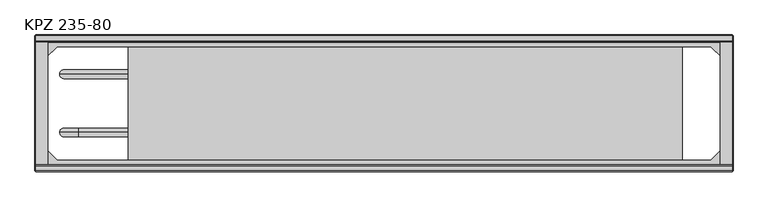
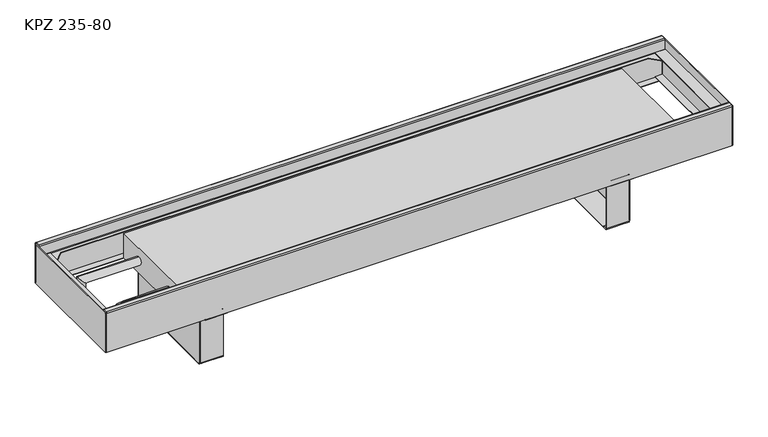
"""IFC4 building model written with IfcOpenShell, lengths in millimetres: proxy geometry, TECHNO_Конвектор напольный_Vita KPZ 235 : KPZ 235-80."""

from ifc_helpers import new_model, si_unit, point, frame, origin, place, context, project, spatial, polyline, circle_curve, ellipse_curve, trimmed, outline, extrude, source, transform, mapped, element, save
from ifc_brep_helpers import plane_surface, cylinder_surface, revolved_surface, advanced_brep


def kpz_235_80_92b68958(model_context):
    return source(origin(), model_context, "Body", "SolidModel", [
        advanced_brep(
        [(409.7, -116.8, 1.5), (409.7, -114.5, 3.8), (409.7, -114.5, 4.9), (409.7, -116.0, 4.9), (409.7, -116.0, 3.8), (409.7, -116.8, 3.0), (409.7, -124.5, 3.0), (409.7, -124.5, 1.5), (409.7, -117.6, 1.5), (409.7, -114.5, 97.7), (409.7, -113.7, 98.5), (409.7, -101.0, 98.5), (409.7, -101.0, 100.0), (409.7, -113.7, 100.0), (409.7, -116.0, 97.7), (409.7, -116.0, 95.5), (409.7, -114.5, 95.5), (409.7, -320.5, 3.8), (409.7, -318.2, 1.5), (409.7, -317.4, 1.5), (409.7, -310.5, 1.5), (409.7, -310.5, 3.0), (409.7, -318.2, 3.0), (409.7, -319.0, 3.8), (409.7, -319.0, 4.9), (409.7, -320.5, 4.9), (409.7, -319.0, 97.7), (409.7, -321.3, 100.0), (409.7, -334.0, 100.0), (409.7, -334.0, 98.5), (409.7, -321.3, 98.5), (409.7, -320.5, 97.7), (409.7, -320.5, 95.5), (409.7, -319.0, 95.5), (367.0, -320.5, 97.7), (367.0, -321.3, 98.5), (367.0, -334.0, 98.5), (367.0, -334.0, 100.0), (367.0, -321.3, 100.0), (367.0, -319.0, 97.7), (367.0, -319.0, 3.8), (367.0, -318.2, 3.0), (367.0, -310.5, 3.0), (367.0, -310.5, 1.5), (367.0, -124.5, 1.5), (367.0, -124.5, 3.0), (367.0, -116.8, 3.0), (367.0, -116.0, 3.8), (367.0, -116.0, 97.7), (367.0, -113.7, 100.0), (367.0, -101.0, 100.0), (367.0, -101.0, 98.5), (367.0, -113.7, 98.5), (367.0, -114.5, 97.7), (367.0, -114.5, 3.8), (367.0, -116.8, 1.5), (367.0, -117.6, 1.5), (367.0, -117.6, 0.0), (367.0, -317.4, 0.0), (367.0, -317.4, 1.5), (367.0, -318.2, 1.5), (367.0, -320.5, 3.8), (410.5, -116.8, 95.5), (410.5, -318.2, 95.5), (412.0, -318.2, 95.5), (412.0, -116.8, 95.5), (412.0, -116.8, 4.9), (412.0, -117.6, 4.9), (410.5, -117.6, 4.9), (410.5, -116.8, 4.9), (410.5, -318.2, 4.9), (410.5, -317.4, 4.9), (412.0, -317.4, 4.9), (412.0, -318.2, 4.9), (410.5, -117.6, 2.3), (410.5, -317.4, 2.3), (411.9999999, -317.4, 2.3), (412.0, -117.6, 2.3), (409.7, -117.6, 0.0), (409.7, -317.4, 0.0)],
        [
            (0, 1, circle_curve(frame((409.7, -116.8, 3.8), z_axis=(1.0, 0.0, 0.0), x_axis=(0.0, -1.0, 0.0)), 2.3)),
            (1, 2),
            (2, 3),
            (3, 4),
            (4, 5, circle_curve(frame((409.7, -116.8, 3.8), z_axis=(-1.0, 0.0, 0.0), x_axis=(0.0, -1.0, 0.0)), 0.8)),
            (5, 6),
            (6, 7),
            (7, 8),
            (8, 0),
            (9, 10, circle_curve(frame((409.7, -113.7, 97.7), z_axis=(-1.0, 0.0, 0.0), x_axis=(0.0, -1.0, 0.0)), 0.8)),
            (10, 11),
            (11, 12),
            (12, 13),
            (13, 14, circle_curve(frame((409.7, -113.7, 97.7), z_axis=(1.0, 0.0, 0.0), x_axis=(0.0, -1.0, 0.0)), 2.3)),
            (14, 15),
            (15, 16),
            (16, 9),
            (17, 18, circle_curve(frame((409.7, -318.2, 3.8), z_axis=(1.0, 0.0, 0.0), x_axis=(0.0, -1.0, 0.0)), 2.3)),
            (18, 19),
            (19, 20),
            (20, 21),
            (21, 22),
            (22, 23, circle_curve(frame((409.7, -318.2, 3.8), z_axis=(-1.0, 0.0, 0.0), x_axis=(0.0, -1.0, 0.0)), 0.8)),
            (23, 24),
            (24, 25),
            (25, 17),
            (26, 27, circle_curve(frame((409.7, -321.3, 97.7), z_axis=(1.0, 0.0, 0.0), x_axis=(0.0, -1.0, 0.0)), 2.3)),
            (27, 28),
            (28, 29),
            (29, 30),
            (30, 31, circle_curve(frame((409.7, -321.3, 97.7), z_axis=(-1.0, 0.0, 0.0), x_axis=(0.0, -1.0, 0.0)), 0.8)),
            (31, 32),
            (32, 33),
            (33, 26),
            (34, 35, circle_curve(frame((367.0, -321.3, 97.7), z_axis=(1.0, 0.0, 0.0), x_axis=(0.0, -1.0, 0.0)), 0.8)),
            (35, 36),
            (36, 37),
            (37, 38),
            (38, 39, circle_curve(frame((367.0, -321.3, 97.7), z_axis=(-1.0, 0.0, 0.0), x_axis=(0.0, -1.0, 0.0)), 2.3)),
            (39, 40),
            (40, 41, circle_curve(frame((367.0, -318.2, 3.8), z_axis=(1.0, 0.0, 0.0), x_axis=(0.0, -1.0, 0.0)), 0.8)),
            (41, 42),
            (42, 43),
            (43, 44),
            (44, 45),
            (45, 46),
            (46, 47, circle_curve(frame((367.0, -116.8, 3.8), z_axis=(1.0, 0.0, 0.0), x_axis=(0.0, -1.0, 0.0)), 0.8)),
            (47, 48),
            (48, 49, circle_curve(frame((367.0, -113.7, 97.7), z_axis=(-1.0, 0.0, 0.0), x_axis=(0.0, -1.0, 0.0)), 2.3)),
            (49, 50),
            (50, 51),
            (51, 52),
            (52, 53, circle_curve(frame((367.0, -113.7, 97.7), z_axis=(1.0, 0.0, 0.0), x_axis=(0.0, -1.0, 0.0)), 0.8)),
            (53, 54),
            (54, 55, circle_curve(frame((367.0, -116.8, 3.8), z_axis=(-1.0, 0.0, 0.0), x_axis=(0.0, -1.0, 0.0)), 2.3)),
            (55, 56),
            (56, 57),
            (57, 58),
            (58, 59),
            (59, 60),
            (60, 61, circle_curve(frame((367.0, -318.2, 3.8), z_axis=(-1.0, 0.0, 0.0), x_axis=(0.0, -1.0, 0.0)), 2.3)),
            (61, 34),
            (30, 35),
            (34, 31),
            (29, 36),
            (28, 37),
            (27, 38),
            (26, 39),
            (33, 24),
            (23, 40),
            (22, 41),
            (5, 46),
            (45, 6),
            (4, 47),
            (3, 15),
            (14, 48),
            (13, 49),
            (12, 50),
            (11, 51),
            (10, 52),
            (9, 53),
            (16, 2),
            (1, 54),
            (0, 55),
            (8, 56),
            (17, 61),
            (60, 18),
            (25, 32),
            (21, 42),
            (20, 43),
            (59, 19),
            (44, 7),
            (15, 62, circle_curve(frame((409.7, -116.8, 95.5), z_axis=(0.0, 0.0, -1.0), x_axis=(-1.0, 0.0, 0.0)), 0.8)),
            (62, 63),
            (63, 33, circle_curve(frame((409.7, -318.2, 95.5), z_axis=(0.0, 0.0, -1.0), x_axis=(-1.0, 0.0, 0.0)), 0.8)),
            (32, 64, circle_curve(frame((409.7, -318.2, 95.5), z_axis=(0.0, 0.0, 1.0), x_axis=(-1.0, 0.0, 0.0)), 2.3)),
            (64, 65),
            (65, 16, circle_curve(frame((409.7, -116.8, 95.5), z_axis=(0.0, 0.0, 1.0), x_axis=(-1.0, 0.0, 0.0)), 2.3)),
            (2, 66, circle_curve(frame((409.7, -116.8, 4.9), z_axis=(0.0, 0.0, -1.0), x_axis=(-1.0, 0.0, 0.0)), 2.3)),
            (66, 67),
            (67, 68),
            (68, 69),
            (69, 3, circle_curve(frame((409.7, -116.8, 4.9), z_axis=(0.0, 0.0, 1.0), x_axis=(-1.0, 0.0, 0.0)), 0.8)),
            (24, 70, circle_curve(frame((409.7, -318.2, 4.9), z_axis=(0.0, 0.0, 1.0), x_axis=(-1.0, 0.0, 0.0)), 0.8)),
            (70, 71),
            (71, 72),
            (72, 73),
            (73, 25, circle_curve(frame((409.7, -318.2, 4.9), z_axis=(0.0, 0.0, -1.0), x_axis=(-1.0, 0.0, 0.0)), 2.3)),
            (69, 62),
            (68, 74),
            (74, 75),
            (75, 71),
            (70, 63),
            (64, 73),
            (72, 76),
            (76, 77),
            (77, 67),
            (66, 65),
            (8, 74, circle_curve(frame((409.7, -117.6, 2.3), z_axis=(0.0, -1.0, 0.0), x_axis=(-1.0, 0.0, 0.0)), 0.8)),
            (77, 78, circle_curve(frame((409.7, -117.6, 2.3), z_axis=(0.0, 1.0, 0.0), x_axis=(-1.0, 0.0, 0.0)), 2.3)),
            (78, 57),
            (58, 79),
            (79, 76, circle_curve(frame((409.7, -317.4, 2.3), z_axis=(0.0, -1.0, 0.0), x_axis=(-1.0, 0.0, 0.0)), 2.3)),
            (75, 19, circle_curve(frame((409.7, -317.4, 2.3), z_axis=(0.0, 1.0, 0.0), x_axis=(-1.0, 0.0, 0.0)), 0.8)),
            (20, 7),
            (79, 78),
        ],
        [
            plane_surface(frame((409.7, -322.1, 97.7), z_axis=(1.0, 0.0, 0.0), x_axis=(0.0, 0.0, 1.0))),
            plane_surface(frame((367.0, -322.1, 97.7), z_axis=(-1.0, 0.0, 0.0), x_axis=(0.0, 0.0, -1.0))),
            revolved_surface(polyline([(409.7, -322.1, 97.7), (367.0, -322.1, 97.7)]), (409.7, -321.3, 97.7), (1.0, 0.0, 0.0)),
            plane_surface(frame((367.0, -321.3, 98.5), z_axis=(0.0, 0.0, -1.0), x_axis=(1.0, 0.0, 0.0))),
            plane_surface(frame((367.0, -334.0, 98.5), z_axis=(0.0, -1.0, 0.0), x_axis=(1.0, 0.0, 0.0))),
            plane_surface(frame((367.0, -334.0, 100.0), z_axis=(0.0, 0.0, 1.0), x_axis=(1.0, 0.0, 0.0))),
            cylinder_surface(frame((409.7, -321.3, 97.7), z_axis=(-1.0, 0.0, 0.0), x_axis=(0.0, -1.0, 0.0)), 2.3),
            plane_surface(frame((367.0, -319.0, 97.7), z_axis=(0.0, 1.0, 3.691903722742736e-12), x_axis=(1.0, 0.0, 0.0))),
            revolved_surface(polyline([(409.7, -319.0, 3.8), (367.0, -319.0, 3.8)]), (409.7, -318.2, 3.8), (1.0, 0.0, 0.0)),
            plane_surface(frame((367.0, -124.5, 3.0), z_axis=(0.0, 0.0, 1.0), x_axis=(1.0, 0.0, 0.0))),
            revolved_surface(polyline([(409.7, -117.6, 3.8), (367.0, -117.6, 3.8)]), (412.0, -116.8, 3.8), (1.0, 0.0, 0.0)),
            plane_surface(frame((367.0, -116.0, 3.8), z_axis=(0.0, -1.0, 0.0), x_axis=(1.0, 0.0, 0.0))),
            cylinder_surface(frame((412.0, -113.7, 97.7), z_axis=(-1.0, 0.0, 0.0), x_axis=(0.0, -1.0, 0.0)), 2.3),
            plane_surface(frame((367.0, -113.7, 100.0), z_axis=(0.0, 0.0, 1.0), x_axis=(1.0, 0.0, 0.0))),
            plane_surface(frame((367.0, -101.0, 100.0), z_axis=(0.0, 1.0, 0.0), x_axis=(1.0, 0.0, 0.0))),
            plane_surface(frame((367.0, -101.0, 98.5), z_axis=(0.0, 0.0, -1.0), x_axis=(1.0, 0.0, 0.0))),
            revolved_surface(polyline([(409.7, -114.5, 97.7), (367.0, -114.5, 97.7)]), (412.0, -113.7, 97.7), (1.0, 0.0, 0.0)),
            plane_surface(frame((367.0, -114.5, 97.7), z_axis=(0.0, 1.0, 0.0), x_axis=(1.0, 0.0, 0.0))),
            cylinder_surface(frame((412.0, -116.8, 3.8), z_axis=(-1.0, 0.0, 0.0), x_axis=(0.0, -1.0, 0.0)), 2.3),
            plane_surface(frame((367.0, -116.8, 1.5), z_axis=(0.0, 0.0, -1.0), x_axis=(1.0, 0.0, 0.0))),
            cylinder_surface(frame((409.7, -318.2, 3.8), z_axis=(-1.0, 0.0, 0.0), x_axis=(0.0, -1.0, 0.0)), 2.3),
            plane_surface(frame((367.0, -320.5, 3.8), z_axis=(0.0, -1.0, 0.0), x_axis=(1.0, 0.0, 0.0))),
            plane_surface(frame((367.0, -318.2, 3.0), z_axis=(0.0, 0.0, 1.0), x_axis=(1.0, 0.0, 0.0))),
            plane_surface(frame((367.0, -310.5, 3.0), z_axis=(0.0, 1.0, 0.0), x_axis=(1.0, 0.0, 0.0))),
            plane_surface(frame((367.0, -310.5, 1.5), z_axis=(0.0, 0.0, -1.0), x_axis=(1.0, 0.0, 0.0))),
            plane_surface(frame((367.0, -124.5, 1.5), z_axis=(0.0, -1.0, 0.0), x_axis=(1.0, 0.0, 0.0))),
            plane_surface(frame((409.7, -116.0, 95.5), z_axis=(0.0, 0.0, 1.0), x_axis=(0.0, -1.0, 0.0))),
            plane_surface(frame((409.7, -116.0, 4.9), z_axis=(0.0, 0.0, -1.0), x_axis=(0.0, 1.0, 0.0))),
            revolved_surface(polyline([(408.9, -116.8, 4.9), (408.9, -116.8, 95.5)]), (409.7, -116.8, 4.9), (0.0, 0.0, -1.0)),
            plane_surface(frame((410.5, -116.8, 95.5), z_axis=(-1.0, 0.0, 0.0), x_axis=(0.0, 0.0, -1.0))),
            plane_surface(frame((412.0, -117.6, 95.5), z_axis=(1.0, -4.3226800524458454e-10, 0.0), x_axis=(0.0, 0.0, -1.0))),
            cylinder_surface(frame((409.7, -116.8, 4.9), z_axis=(0.0, 0.0, 1.0), x_axis=(-1.0, 0.0, 0.0)), 2.3),
            cylinder_surface(frame((409.7, -318.2, 0.0), z_axis=(0.0, 0.0, 1.0), x_axis=(-1.0, 0.0, 0.0)), 2.3),
            revolved_surface(polyline([(408.9, -318.2, 4.9), (408.9, -318.2, 95.5)]), (409.7, -318.2, 0.0), (0.0, 0.0, -1.0)),
            plane_surface(frame((367.0, -117.6, 1.5), z_axis=(0.0, 1.0, 0.0), x_axis=(0.0, 0.0, 1.0))),
            plane_surface(frame((367.0, -317.4, 1.5), z_axis=(0.0, -1.0, 0.0), x_axis=(0.0, 0.0, -1.0))),
            plane_surface(frame((367.0, -117.6, 1.5), z_axis=(0.0, 0.0, 1.0), x_axis=(0.0, -1.0, 0.0))),
            revolved_surface(polyline([(408.9, -317.4, 2.3), (408.9, -117.6, 2.3)]), (409.7, -317.4, 2.3), (0.0, -1.0, 0.0)),
            cylinder_surface(frame((409.7, -317.4, 2.3), z_axis=(0.0, 1.0, 0.0), x_axis=(-1.0, 0.0, 0.0)), 2.3),
            plane_surface(frame((409.7, -117.6, 0.0), z_axis=(0.0, 0.0, -1.0), x_axis=(0.0, -1.0, 0.0))),
        ],
        [
            (0, [[1, 2, 3, 4, 5, 6, 7, 8, 9]]),
            (0, [[10, 11, 12, 13, 14, 15, 16, 17]]),
            (0, [[18, 19, 20, 21, 22, 23, 24, 25, 26]]),
            (0, [[27, 28, 29, 30, 31, 32, 33, 34]]),
            (1, [[35, 36, 37, 38, 39, 40, 41, 42, 43, 44, 45, 46, 47, 48, 49, 50, 51, 52, 53, 54, 55, 56, 57, 58, 59, 60, 61, 62]]),
            (2, [[-31, 63, -35, 64]]),
            (3, [[-30, 65, -36, -63]]),
            (4, [[-29, 66, -37, -65]]),
            (5, [[-28, 67, -38, -66]]),
            (6, [[-27, 68, -39, -67]]),
            (7, [[-40, -68, -34, 69, -24, 70]]),
            (8, [[-23, 71, -41, -70]]),
            (9, [[-6, 72, -46, 73]]),
            (10, [[-5, 74, -47, -72]]),
            (11, [[-48, -74, -4, 75, -15, 76]]),
            (12, [[-14, 77, -49, -76]]),
            (13, [[-13, 78, -50, -77]]),
            (14, [[-12, 79, -51, -78]]),
            (15, [[-11, 80, -52, -79]]),
            (16, [[-10, 81, -53, -80]]),
            (17, [[-54, -81, -17, 82, -2, 83]]),
            (18, [[-1, 84, -55, -83]]),
            (19, [[-84, -9, 85, -56]]),
            (20, [[-18, 86, -61, 87]]),
            (21, [[-62, -86, -26, 88, -32, -64]]),
            (22, [[-22, 89, -42, -71]]),
            (23, [[-21, 90, -43, -89]]),
            (24, [[-87, -60, 91, -19]]),
            (25, [[-7, -73, -45, 92]]),
            (26, [[93, 94, 95, -33, 96, 97, 98, -16]]),
            (27, [[99, 100, 101, 102, 103, -3]]),
            (27, [[104, 105, 106, 107, 108, -25]]),
            (28, [[-93, -75, -103, 109]]),
            (29, [[-94, -109, -102, 110, 111, 112, -105, 113]]),
            (30, [[-97, 114, -107, 115, 116, 117, -100, 118]]),
            (31, [[-98, -118, -99, -82]]),
            (32, [[-96, -88, -108, -114]]),
            (33, [[-95, -113, -104, -69]]),
            (34, [[-57, -85, 119, -110, -101, -117, 120, 121]]),
            (35, [[122, 123, -115, -106, -112, 124, -91, -59]]),
            (36, [[125, -92, -44, -90]]),
            (37, [[-119, -8, -125, -20, -124, -111]]),
            (38, [[-120, -116, -123, 126]]),
            (39, [[-121, -126, -122, -58]]),
        ],
    ),
        advanced_brep(
        [(-409.7, -318.2, 1.5), (-409.7, -320.5, 3.8), (-409.7, -320.5, 4.9), (-409.7, -319.0, 4.9), (-409.7, -319.0, 3.8), (-409.7, -318.2, 3.0), (-409.7, -310.5, 3.0), (-409.7, -310.5, 1.5), (-409.7, -317.4, 1.5), (-409.7, -320.5, 97.7), (-409.7, -321.3, 98.5), (-409.7, -334.0, 98.5), (-409.7, -334.0, 100.0), (-409.7, -321.3, 100.0), (-409.7, -319.0, 97.7), (-409.7, -319.0, 95.5), (-409.7, -320.5, 95.5), (-409.7, -114.5, 3.8), (-409.7, -116.8, 1.5), (-409.7, -117.6, 1.5), (-409.7, -124.5, 1.5), (-409.7, -124.5, 3.0), (-409.7, -116.8, 3.0), (-409.7, -116.0, 3.8), (-409.7, -116.0, 4.9), (-409.7, -114.5, 4.9), (-409.7, -116.0, 97.7), (-409.7, -113.7, 100.0), (-409.7, -101.0, 100.0), (-409.7, -101.0, 98.5), (-409.7, -113.7, 98.5), (-409.7, -114.5, 97.7), (-409.7, -114.5, 95.5), (-409.7, -116.0, 95.5), (-367.0, -114.5, 97.7), (-367.0, -113.7, 98.5), (-367.0, -101.0, 98.5), (-367.0, -101.0, 100.0), (-367.0, -113.7, 100.0), (-367.0, -116.0, 97.7), (-367.0, -116.0, 3.8), (-367.0, -116.8, 3.0), (-367.0, -124.5, 3.0), (-367.0, -124.5, 1.5), (-367.0, -310.5, 1.5), (-367.0, -310.5, 3.0), (-367.0, -318.2, 3.0), (-367.0, -319.0, 3.8), (-367.0, -319.0, 97.7), (-367.0, -321.3, 100.0), (-367.0, -334.0, 100.0), (-367.0, -334.0, 98.5), (-367.0, -321.3, 98.5), (-367.0, -320.5, 97.7), (-367.0, -320.5, 3.8), (-367.0, -318.2, 1.5), (-367.0, -317.4, 1.5), (-367.0, -317.4, 0.0), (-367.0, -117.6, 0.0), (-367.0, -117.6, 1.5), (-367.0, -116.8, 1.5), (-367.0, -114.5, 3.8), (-410.5, -318.2, 95.5), (-410.5, -116.8, 95.5), (-412.0, -116.8, 95.5), (-412.0, -318.2, 95.5), (-412.0, -318.2, 4.9), (-412.0, -317.4, 4.9), (-410.5, -317.4, 4.9), (-410.5, -318.2, 4.9), (-410.5, -116.8, 4.9), (-410.5, -117.6, 4.9), (-412.0, -117.6, 4.9), (-412.0, -116.8, 4.9), (-410.5, -317.4, 2.3), (-410.5, -117.6, 2.3), (-411.9999999, -117.6, 2.3), (-412.0, -317.4, 2.3), (-409.7, -317.4, 0.0), (-409.7, -117.6, 0.0)],
        [
            (0, 1, circle_curve(frame((-409.7, -318.2, 3.8), z_axis=(-1.0, 0.0, 0.0), x_axis=(0.0, 1.0, 0.0)), 2.3)),
            (1, 2),
            (2, 3),
            (3, 4),
            (4, 5, circle_curve(frame((-409.7, -318.2, 3.8), z_axis=(1.0, 0.0, 0.0), x_axis=(0.0, 1.0, 0.0)), 0.8)),
            (5, 6),
            (6, 7),
            (7, 8),
            (8, 0),
            (9, 10, circle_curve(frame((-409.7, -321.3, 97.7), z_axis=(1.0, 0.0, 0.0), x_axis=(0.0, 1.0, 0.0)), 0.8)),
            (10, 11),
            (11, 12),
            (12, 13),
            (13, 14, circle_curve(frame((-409.7, -321.3, 97.7), z_axis=(-1.0, 0.0, 0.0), x_axis=(0.0, 1.0, 0.0)), 2.3)),
            (14, 15),
            (15, 16),
            (16, 9),
            (17, 18, circle_curve(frame((-409.7, -116.8, 3.8), z_axis=(-1.0, 0.0, 0.0), x_axis=(0.0, 1.0, 0.0)), 2.3)),
            (18, 19),
            (19, 20),
            (20, 21),
            (21, 22),
            (22, 23, circle_curve(frame((-409.7, -116.8, 3.8), z_axis=(1.0, 0.0, 0.0), x_axis=(0.0, 1.0, 0.0)), 0.8)),
            (23, 24),
            (24, 25),
            (25, 17),
            (26, 27, circle_curve(frame((-409.7, -113.7, 97.7), z_axis=(-1.0, 0.0, 0.0), x_axis=(0.0, 1.0, 0.0)), 2.3)),
            (27, 28),
            (28, 29),
            (29, 30),
            (30, 31, circle_curve(frame((-409.7, -113.7, 97.7), z_axis=(1.0, 0.0, 0.0), x_axis=(0.0, 1.0, 0.0)), 0.8)),
            (31, 32),
            (32, 33),
            (33, 26),
            (34, 35, circle_curve(frame((-367.0, -113.7, 97.7), z_axis=(-1.0, 0.0, 0.0), x_axis=(0.0, 1.0, 0.0)), 0.8)),
            (35, 36),
            (36, 37),
            (37, 38),
            (38, 39, circle_curve(frame((-367.0, -113.7, 97.7), z_axis=(1.0, 0.0, 0.0), x_axis=(0.0, 1.0, 0.0)), 2.3)),
            (39, 40),
            (40, 41, circle_curve(frame((-367.0, -116.8, 3.8), z_axis=(-1.0, 0.0, 0.0), x_axis=(0.0, 1.0, 0.0)), 0.8)),
            (41, 42),
            (42, 43),
            (43, 44),
            (44, 45),
            (45, 46),
            (46, 47, circle_curve(frame((-367.0, -318.2, 3.8), z_axis=(-1.0, 0.0, 0.0), x_axis=(0.0, 1.0, 0.0)), 0.8)),
            (47, 48),
            (48, 49, circle_curve(frame((-367.0, -321.3, 97.7), z_axis=(1.0, 0.0, 0.0), x_axis=(0.0, 1.0, 0.0)), 2.3)),
            (49, 50),
            (50, 51),
            (51, 52),
            (52, 53, circle_curve(frame((-367.0, -321.3, 97.7), z_axis=(-1.0, 0.0, 0.0), x_axis=(0.0, 1.0, 0.0)), 0.8)),
            (53, 54),
            (54, 55, circle_curve(frame((-367.0, -318.2, 3.8), z_axis=(1.0, 0.0, 0.0), x_axis=(0.0, 1.0, 0.0)), 2.3)),
            (55, 56),
            (56, 57),
            (57, 58),
            (58, 59),
            (59, 60),
            (60, 61, circle_curve(frame((-367.0, -116.8, 3.8), z_axis=(1.0, 0.0, 0.0), x_axis=(0.0, 1.0, 0.0)), 2.3)),
            (61, 34),
            (30, 35),
            (34, 31),
            (29, 36),
            (28, 37),
            (27, 38),
            (26, 39),
            (33, 24),
            (23, 40),
            (22, 41),
            (5, 46),
            (45, 6),
            (4, 47),
            (3, 15),
            (14, 48),
            (13, 49),
            (12, 50),
            (11, 51),
            (10, 52),
            (9, 53),
            (16, 2),
            (1, 54),
            (0, 55),
            (8, 56),
            (17, 61),
            (60, 18),
            (25, 32),
            (21, 42),
            (20, 43),
            (59, 19),
            (44, 7),
            (15, 62, circle_curve(frame((-409.7, -318.2, 95.5), z_axis=(0.0, 0.0, -1.0), x_axis=(1.0, 0.0, 0.0)), 0.8)),
            (62, 63),
            (63, 33, circle_curve(frame((-409.7, -116.8, 95.5), z_axis=(0.0, 0.0, -1.0), x_axis=(1.0, 0.0, 0.0)), 0.8)),
            (32, 64, circle_curve(frame((-409.7, -116.8, 95.5), z_axis=(0.0, 0.0, 1.0), x_axis=(1.0, 0.0, 0.0)), 2.3)),
            (64, 65),
            (65, 16, circle_curve(frame((-409.7, -318.2, 95.5), z_axis=(0.0, 0.0, 1.0), x_axis=(1.0, 0.0, 0.0)), 2.3)),
            (2, 66, circle_curve(frame((-409.7, -318.2, 4.9), z_axis=(0.0, 0.0, -1.0), x_axis=(1.0, 0.0, 0.0)), 2.3)),
            (66, 67),
            (67, 68),
            (68, 69),
            (69, 3, circle_curve(frame((-409.7, -318.2, 4.9), z_axis=(0.0, 0.0, 1.0), x_axis=(1.0, 0.0, 0.0)), 0.8)),
            (24, 70, circle_curve(frame((-409.7, -116.8, 4.9), z_axis=(0.0, 0.0, 1.0), x_axis=(1.0, 0.0, 0.0)), 0.8)),
            (70, 71),
            (71, 72),
            (72, 73),
            (73, 25, circle_curve(frame((-409.7, -116.8, 4.9), z_axis=(0.0, 0.0, -1.0), x_axis=(1.0, 0.0, 0.0)), 2.3)),
            (69, 62),
            (68, 74),
            (74, 75),
            (75, 71),
            (70, 63),
            (64, 73),
            (72, 76),
            (76, 77),
            (77, 67),
            (66, 65),
            (8, 74, circle_curve(frame((-409.7, -317.4, 2.3), z_axis=(0.0, 1.0, 0.0), x_axis=(1.0, 0.0, 0.0)), 0.8)),
            (77, 78, circle_curve(frame((-409.7, -317.4, 2.3), z_axis=(0.0, -1.0, 0.0), x_axis=(1.0, 0.0, 0.0)), 2.3)),
            (78, 57),
            (58, 79),
            (79, 76, circle_curve(frame((-409.7, -117.6, 2.3), z_axis=(0.0, 1.0, 0.0), x_axis=(1.0, 0.0, 0.0)), 2.3)),
            (75, 19, circle_curve(frame((-409.7, -117.6, 2.3), z_axis=(0.0, -1.0, 0.0), x_axis=(1.0, 0.0, 0.0)), 0.8)),
            (20, 7),
            (79, 78),
        ],
        [
            plane_surface(frame((-409.7, -112.9, 97.7), z_axis=(-1.0, 0.0, 0.0), x_axis=(0.0, 0.0, 1.0))),
            plane_surface(frame((-367.0, -112.9, 97.7), z_axis=(1.0, 0.0, 0.0), x_axis=(0.0, 0.0, -1.0))),
            revolved_surface(polyline([(-409.7, -112.9, 97.7), (-367.0, -112.9, 97.7)]), (-409.7, -113.7, 97.7), (-1.0, 0.0, 0.0)),
            plane_surface(frame((-367.0, -113.7, 98.5), z_axis=(0.0, 0.0, -1.0), x_axis=(-1.0, 0.0, 0.0))),
            plane_surface(frame((-367.0, -101.0, 98.5), z_axis=(0.0, 1.0, 0.0), x_axis=(-1.0, 0.0, 0.0))),
            plane_surface(frame((-367.0, -101.0, 100.0), z_axis=(0.0, 0.0, 1.0), x_axis=(-1.0, 0.0, 0.0))),
            cylinder_surface(frame((-409.7, -113.7, 97.7), z_axis=(1.0, 0.0, 0.0), x_axis=(0.0, 1.0, 0.0)), 2.3),
            plane_surface(frame((-367.0, -116.0, 97.7), z_axis=(0.0, -1.0, 3.691903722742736e-12), x_axis=(-1.0, 0.0, 0.0))),
            revolved_surface(polyline([(-409.7, -116.0, 3.8), (-367.0, -116.0, 3.8)]), (-409.7, -116.8, 3.8), (-1.0, 0.0, 0.0)),
            plane_surface(frame((-367.0, -310.5, 3.0), z_axis=(0.0, 0.0, 1.0), x_axis=(-1.0, 0.0, 0.0))),
            revolved_surface(polyline([(-409.7, -317.4, 3.8), (-367.0, -317.4, 3.8)]), (-412.0, -318.2, 3.8), (-1.0, 0.0, 0.0)),
            plane_surface(frame((-367.0, -319.0, 3.8), z_axis=(0.0, 1.0, 0.0), x_axis=(-1.0, 0.0, 0.0))),
            cylinder_surface(frame((-412.0, -321.3, 97.7), z_axis=(1.0, 0.0, 0.0), x_axis=(0.0, 1.0, 0.0)), 2.3),
            plane_surface(frame((-367.0, -321.3, 100.0), z_axis=(0.0, 0.0, 1.0), x_axis=(-1.0, 0.0, 0.0))),
            plane_surface(frame((-367.0, -334.0, 100.0), z_axis=(0.0, -1.0, 0.0), x_axis=(-1.0, 0.0, 0.0))),
            plane_surface(frame((-367.0, -334.0, 98.5), z_axis=(0.0, 0.0, -1.0), x_axis=(-1.0, 0.0, 0.0))),
            revolved_surface(polyline([(-409.7, -320.5, 97.7), (-367.0, -320.5, 97.7)]), (-412.0, -321.3, 97.7), (-1.0, 0.0, 0.0)),
            plane_surface(frame((-367.0, -320.5, 97.7), z_axis=(0.0, -1.0, 0.0), x_axis=(-1.0, 0.0, 0.0))),
            cylinder_surface(frame((-412.0, -318.2, 3.8), z_axis=(1.0, 0.0, 0.0), x_axis=(0.0, 1.0, 0.0)), 2.3),
            plane_surface(frame((-367.0, -318.2, 1.5), z_axis=(0.0, 0.0, -1.0), x_axis=(-1.0, 0.0, 0.0))),
            cylinder_surface(frame((-409.7, -116.8, 3.8), z_axis=(1.0, 0.0, 0.0), x_axis=(0.0, 1.0, 0.0)), 2.3),
            plane_surface(frame((-367.0, -114.5, 3.8), z_axis=(0.0, 1.0, 0.0), x_axis=(-1.0, 0.0, 0.0))),
            plane_surface(frame((-367.0, -116.8, 3.0), z_axis=(0.0, 0.0, 1.0), x_axis=(-1.0, 0.0, 0.0))),
            plane_surface(frame((-367.0, -124.5, 3.0), z_axis=(0.0, -1.0, 0.0), x_axis=(-1.0, 0.0, 0.0))),
            plane_surface(frame((-367.0, -124.5, 1.5), z_axis=(0.0, 0.0, -1.0), x_axis=(-1.0, 0.0, 0.0))),
            plane_surface(frame((-367.0, -310.5, 1.5), z_axis=(0.0, 1.0, 0.0), x_axis=(-1.0, 0.0, 0.0))),
            plane_surface(frame((-409.7, -319.0, 95.5), z_axis=(0.0, 0.0, 1.0), x_axis=(0.0, 1.0, 0.0))),
            plane_surface(frame((-409.7, -319.0, 4.9), z_axis=(0.0, 0.0, -1.0), x_axis=(0.0, -1.0, 0.0))),
            revolved_surface(polyline([(-408.9, -318.2, 4.9), (-408.9, -318.2, 95.5)]), (-409.7, -318.2, 4.9), (0.0, 0.0, -1.0)),
            plane_surface(frame((-410.5, -318.2, 95.5), z_axis=(1.0, 0.0, 0.0), x_axis=(0.0, 0.0, -1.0))),
            plane_surface(frame((-412.0, -317.4, 95.5), z_axis=(-1.0, 4.3226484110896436e-10, 0.0), x_axis=(0.0, 0.0, -1.0))),
            cylinder_surface(frame((-409.7, -318.2, 4.9), z_axis=(0.0, 0.0, 1.0), x_axis=(1.0, 0.0, 0.0)), 2.3),
            cylinder_surface(frame((-409.7, -116.8, 0.0), z_axis=(0.0, 0.0, 1.0), x_axis=(1.0, 0.0, 0.0)), 2.3),
            revolved_surface(polyline([(-408.9, -116.8, 4.9), (-408.9, -116.8, 95.5)]), (-409.7, -116.8, 0.0), (0.0, 0.0, -1.0)),
            plane_surface(frame((-367.0, -317.4, 1.5), z_axis=(0.0, -1.0, 0.0), x_axis=(0.0, 0.0, 1.0))),
            plane_surface(frame((-367.0, -117.6, 1.5), z_axis=(0.0, 1.0, 0.0), x_axis=(0.0, 0.0, -1.0))),
            plane_surface(frame((-367.0, -317.4, 1.5), z_axis=(0.0, 0.0, 1.0), x_axis=(0.0, 1.0, 0.0))),
            revolved_surface(polyline([(-408.9, -117.6, 2.3), (-408.9, -317.4, 2.3)]), (-409.7, -117.6, 2.3), (0.0, 1.0, 0.0)),
            cylinder_surface(frame((-409.7, -117.6, 2.3), z_axis=(0.0, -1.0, 0.0), x_axis=(1.0, 0.0, 0.0)), 2.3),
            plane_surface(frame((-409.7, -317.4, 0.0), z_axis=(0.0, 0.0, -1.0), x_axis=(0.0, 1.0, 0.0))),
        ],
        [
            (0, [[1, 2, 3, 4, 5, 6, 7, 8, 9]]),
            (0, [[10, 11, 12, 13, 14, 15, 16, 17]]),
            (0, [[18, 19, 20, 21, 22, 23, 24, 25, 26]]),
            (0, [[27, 28, 29, 30, 31, 32, 33, 34]]),
            (1, [[35, 36, 37, 38, 39, 40, 41, 42, 43, 44, 45, 46, 47, 48, 49, 50, 51, 52, 53, 54, 55, 56, 57, 58, 59, 60, 61, 62]]),
            (2, [[-31, 63, -35, 64]]),
            (3, [[-30, 65, -36, -63]]),
            (4, [[-29, 66, -37, -65]]),
            (5, [[-28, 67, -38, -66]]),
            (6, [[-27, 68, -39, -67]]),
            (7, [[-40, -68, -34, 69, -24, 70]]),
            (8, [[-23, 71, -41, -70]]),
            (9, [[-6, 72, -46, 73]]),
            (10, [[-5, 74, -47, -72]]),
            (11, [[-48, -74, -4, 75, -15, 76]]),
            (12, [[-14, 77, -49, -76]]),
            (13, [[-13, 78, -50, -77]]),
            (14, [[-12, 79, -51, -78]]),
            (15, [[-11, 80, -52, -79]]),
            (16, [[-10, 81, -53, -80]]),
            (17, [[-54, -81, -17, 82, -2, 83]]),
            (18, [[-1, 84, -55, -83]]),
            (19, [[-84, -9, 85, -56]]),
            (20, [[-18, 86, -61, 87]]),
            (21, [[-62, -86, -26, 88, -32, -64]]),
            (22, [[-22, 89, -42, -71]]),
            (23, [[-21, 90, -43, -89]]),
            (24, [[-87, -60, 91, -19]]),
            (25, [[-7, -73, -45, 92]]),
            (26, [[93, 94, 95, -33, 96, 97, 98, -16]]),
            (27, [[99, 100, 101, 102, 103, -3]]),
            (27, [[104, 105, 106, 107, 108, -25]]),
            (28, [[-93, -75, -103, 109]]),
            (29, [[-94, -109, -102, 110, 111, 112, -105, 113]]),
            (30, [[-97, 114, -107, 115, 116, 117, -100, 118]]),
            (31, [[-98, -118, -99, -82]]),
            (32, [[-96, -88, -108, -114]]),
            (33, [[-95, -113, -104, -69]]),
            (34, [[-57, -85, 119, -110, -101, -117, 120, 121]]),
            (35, [[122, 123, -115, -106, -112, 124, -91, -59]]),
            (36, [[125, -92, -44, -90]]),
            (37, [[-119, -8, -125, -20, -124, -111]]),
            (38, [[-120, -116, -123, 126]]),
            (39, [[-121, -126, -122, -58]]),
        ],
    ),
        advanced_brep(
        [(-440.0, -267.5, 136.5), (-440.0, -267.5, 121.5), (-525.0, -267.5, 136.5), (-525.0, -267.5, 121.5), (-542.5, -267.5, 104.0), (-557.5, -267.5, 104.0), (-557.5, -267.5, 100.0), (-542.5, -267.5, 100.0)],
        [
            (0, 1, circle_curve(frame((-440.0, -267.5, 129.0), z_axis=(1.0, 0.0, 0.0), x_axis=(0.0, 0.0, -1.0)), 7.5)),
            (1, 0, circle_curve(frame((-440.0, -267.5, 129.0), z_axis=(1.0, 0.0, 0.0), x_axis=(0.0, 0.0, -1.0)), 7.5)),
            (0, 2),
            (2, 3, circle_curve(frame((-525.0, -267.5, 129.0), z_axis=(1.0, 0.0, 0.0), x_axis=(0.0, 0.0, -1.0)), 7.5)),
            (3, 1),
            (3, 2, circle_curve(frame((-525.0, -267.5, 129.0), z_axis=(1.0, 0.0, 0.0), x_axis=(0.0, 0.0, -1.0)), 7.5)),
            (4, 3, circle_curve(frame((-525.0, -267.5, 104.0), z_axis=(0.0, 1.0, 0.0), x_axis=(0.0, 0.0, 1.0)), 17.5)),
            (2, 5, circle_curve(frame((-525.0, -267.5, 104.0), z_axis=(0.0, -1.0, 0.0), x_axis=(0.0, 0.0, 1.0)), 32.5)),
            (5, 4, circle_curve(frame((-550.0, -267.5, 104.0), z_axis=(0.0, 0.0, 1.0), x_axis=(1.0, 0.0, 0.0)), 7.5)),
            (4, 5, circle_curve(frame((-550.0, -267.5, 104.0), z_axis=(0.0, 0.0, 1.0), x_axis=(1.0, 0.0, 0.0)), 7.5)),
            (6, 7, circle_curve(frame((-550.0, -267.5, 100.0), z_axis=(0.0, 0.0, -1.0), x_axis=(1.0, 0.0, 0.0)), 7.5)),
            (7, 6, circle_curve(frame((-550.0, -267.5, 100.0), z_axis=(0.0, 0.0, -1.0), x_axis=(1.0, 0.0, 0.0)), 7.5)),
            (5, 6),
            (7, 4),
        ],
        [
            plane_surface(frame((-440.0, -267.5, 129.0), z_axis=(1.0, 0.0, 0.0), x_axis=(0.0, -1.0, 0.0))),
            cylinder_surface(frame((-440.0, -267.5, 129.0), z_axis=(1.0, 0.0, 0.0), x_axis=(0.0, 0.0, -1.0)), 7.5),
            revolved_surface(trimmed(ellipse_curve(frame((-525.0, -267.5, 129.0), z_axis=(1.0, 0.0, 0.0), x_axis=(0.0, 0.0, -1.0)), 7.5, 7.5), [point((-525.0, -267.5, 136.5))], [point((-525.0, -267.5, 121.5))], True, "CARTESIAN"), (-525.0, -267.5, 104.0), (0.0, -1.0, 0.0)),
            revolved_surface(trimmed(ellipse_curve(frame((-525.0, -267.5, 129.0), z_axis=(1.0, 0.0, 0.0), x_axis=(0.0, 0.0, -1.0)), 7.5, 7.5), [point((-525.0, -267.5, 121.5))], [point((-525.0, -267.5, 136.5))], True, "CARTESIAN"), (-525.0, -267.5, 104.0), (0.0, -1.0, 0.0)),
            plane_surface(frame((-550.0, -267.5, 100.0), z_axis=(0.0, 0.0, -1.0), x_axis=(0.0, -1.0, 0.0))),
            cylinder_surface(frame((-550.0, -267.5, 104.0), z_axis=(0.0, 0.0, 1.0), x_axis=(1.0, 0.0, 0.0)), 7.5),
        ],
        [
            (0, [[1, 2]]),
            (1, [[-1, 3, 4, 5]]),
            (1, [[-2, -5, 6, -3]]),
            (2, [[7, -4, 8, 9]]),
            (3, [[-8, -6, -7, 10]]),
            (4, [[11, 12]]),
            (5, [[-9, 13, -12, 14]]),
            (5, [[-10, -14, -11, -13]]),
        ],
    ),
        advanced_brep(
        [(-440.0, -167.5, 136.5), (-440.0, -167.5, 121.5), (-557.5, -167.5, 136.5), (-542.5, -167.5, 121.5), (-557.5, -167.5, 100.0), (-542.5, -167.5, 100.0)],
        [
            (0, 1, circle_curve(frame((-440.0, -167.5, 129.0), z_axis=(1.0, 0.0, 0.0), x_axis=(0.0, 0.0, -1.0)), 7.5)),
            (1, 0, circle_curve(frame((-440.0, -167.5, 129.0), z_axis=(1.0, 0.0, 0.0), x_axis=(0.0, 0.0, -1.0)), 7.5)),
            (0, 2),
            (2, 3, ellipse_curve(frame((-550.0, -167.5, 129.0), z_axis=(0.7071067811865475, 0.0, 0.7071067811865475), x_axis=(0.7071067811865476, 0.0, -0.7071067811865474)), 10.6066017, 7.5)),
            (3, 1),
            (3, 2, ellipse_curve(frame((-550.0, -167.5, 129.0), z_axis=(0.7071067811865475, 0.0, 0.7071067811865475), x_axis=(0.7071067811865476, 0.0, -0.7071067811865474)), 10.6066017, 7.5)),
            (4, 5, circle_curve(frame((-550.0, -167.5, 100.0), z_axis=(0.0, 0.0, -1.0), x_axis=(1.0, 0.0, 0.0)), 7.5)),
            (5, 4, circle_curve(frame((-550.0, -167.5, 100.0), z_axis=(0.0, 0.0, -1.0), x_axis=(1.0, 0.0, 0.0)), 7.5)),
            (2, 4),
            (5, 3),
        ],
        [
            plane_surface(frame((-440.0, -167.5, 129.0), z_axis=(1.0, 0.0, 0.0), x_axis=(0.0, -1.0, 0.0))),
            cylinder_surface(frame((-440.0, -167.5, 129.0), z_axis=(1.0, 0.0, 0.0), x_axis=(0.0, 0.0, -1.0)), 7.5),
            plane_surface(frame((-550.0, -167.5, 100.0), z_axis=(0.0, 0.0, -1.0), x_axis=(0.0, -1.0, 0.0))),
            cylinder_surface(frame((-550.0, -167.5, 129.0), z_axis=(0.0, 0.0, 1.0), x_axis=(1.0, 0.0, 0.0)), 7.5),
        ],
        [
            (0, [[1, 2]]),
            (1, [[-1, 3, 4, 5]]),
            (1, [[-2, -5, 6, -3]]),
            (2, [[7, 8]]),
            (3, [[-4, 9, -8, 10]]),
            (3, [[-6, -10, -7, -9]]),
        ],
    ),
        extrude(outline(polyline([(513.0, -117.5), (513.0, -317.5), (-440.0, -317.5), (-440.0, -117.5), (513.0, -117.5)])), frame((0.0, 0.0, 103.87), z_axis=(0.0, 0.0, 1.0), x_axis=(1.0, 0.0, 0.0)), (0.0, 0.0, 1.0), 50.0),
        extrude(outline(polyline([(-585.5004, -102.0), (-585.5004, -333.0), (-599.0, -333.0), (-599.0, -102.0), (-585.5004, -102.0)])), frame((0.0, 0.0, 101.83), z_axis=(0.0, 0.0, 1.0), x_axis=(1.0, 0.0, 0.0)), (0.0, 0.0, 1.0), 1.0002),
        extrude(outline(polyline([(585.5004, -102.0), (599.0, -102.0), (599.0, -333.0), (585.5004, -333.0), (585.5004, -102.0)])), frame((0.0, 0.0, 101.83), z_axis=(0.0, 0.0, 1.0), x_axis=(1.0, 0.0, 0.0)), (0.0, 0.0, 1.0), 1.0002),
        extrude(outline(polyline([(-599.0, -322.2), (-599.0, -112.8), (-578.0, -112.8), (-578.0, -322.2), (-599.0, -322.2)])), frame((0.0, 0.0, 158.83), z_axis=(0.0, 0.0, 1.0), x_axis=(1.0, 0.0, 0.0)), (0.0, 0.0, 1.0), 1.0002),
        extrude(outline(polyline([(599.0, -322.2), (578.0, -322.2), (578.0, -112.8), (599.0, -112.8), (599.0, -322.2)])), frame((0.0, 0.0, 158.83), z_axis=(0.0, 0.0, 1.0), x_axis=(1.0, 0.0, 0.0)), (0.0, 0.0, 1.0), 1.0002),
        advanced_brep(
        [(-598.2, -101.8, 180.83), (-598.2, -100.0, 179.03), (-598.2, -101.0, 179.03), (-598.2, -101.0, 157.83), (-598.2, -138.5, 157.83), (-598.2, -138.5, 158.83), (-598.2, -112.8, 158.83), (-598.2, -112.0, 159.63), (-598.2, -112.0, 179.03), (-598.2, -110.2, 180.83), (-598.2, -333.2, 180.83), (-598.2, -324.8, 180.83), (-598.2, -323.0, 179.03), (-598.2, -323.0, 159.63), (-598.2, -322.2, 158.83), (-598.2, -296.5, 158.83), (-598.2, -296.5, 157.83), (-598.2, -334.0, 157.83), (-598.2, -334.0, 179.03), (-598.2, -335.0, 179.03), (598.2, -101.8, 180.83), (598.2, -110.2, 180.83), (598.2, -112.0, 179.03), (598.2, -112.0, 159.63), (598.2, -112.8, 158.83), (598.2, -138.5, 158.83), (598.2, -138.5, 157.83), (598.2, -101.0, 157.83), (598.2, -101.0, 179.03), (598.2, -100.0, 179.03), (598.2, -333.2, 180.83), (598.2, -335.0, 179.03), (598.2, -334.0, 179.03), (598.2, -334.0, 157.83), (598.2, -296.5, 157.83), (598.2, -296.5, 158.83), (598.2, -322.2, 158.83), (598.2, -323.0, 159.63), (598.2, -323.0, 179.03), (598.2, -324.8, 180.83), (-580.3, -138.5, 158.83), (-561.8, -120.0, 158.83), (561.8, -120.0, 158.83), (580.3, -138.5, 158.83), (-580.3, -138.5, 157.83), (580.3, -138.5, 157.83), (561.8, -120.0, 157.83), (-561.8, -120.0, 157.83), (598.2, -100.0, 100.0), (-598.2, -100.0, 100.0), (-598.2, -335.0, 100.0), (598.2, -335.0, 100.0), (580.3, -296.5, 157.83), (-580.3, -296.5, 157.83), (-561.8, -315.0, 157.83), (561.8, -315.0, 157.83), (-580.3, -296.5, 158.83), (580.3, -296.5, 158.83), (561.8, -315.0, 158.83), (-561.8, -315.0, 158.83), (-600.0, -101.8, 179.03), (-600.0, -333.2, 179.03), (-599.0, -333.2, 179.03), (-599.0, -101.8, 179.03), (600.0, -333.2, 179.03), (600.0, -101.8, 179.03), (599.0, -101.8, 179.03), (599.0, -333.2, 179.03), (600.0, -101.8, 100.0), (600.0, -333.2, 100.0), (-600.0, -333.2, 100.0), (-600.0, -101.8, 100.0), (599.0, -101.8, 100.0), (598.2, -101.0, 100.0), (598.2, -113.0, 100.0), (-598.2, -113.0, 100.0), (-598.2, -101.0, 100.0), (-599.0, -101.8, 100.0), (-599.0, -333.2, 100.0), (-598.2, -334.0, 100.0), (-598.2, -322.0, 100.0), (598.2, -322.0, 100.0), (598.2, -334.0, 100.0), (599.0, -333.2, 100.0), (-598.2, -101.0, 100.83), (598.2, -101.0, 100.83), (598.2, -334.0, 100.83), (-598.2, -334.0, 100.83), (-598.2, -113.0, 100.83), (598.2, -113.0, 100.83), (598.2, -322.0, 100.83), (-598.2, -322.0, 100.83)],
        [
            (0, 1, circle_curve(frame((-598.2, -101.8, 179.03), z_axis=(-1.0, 0.0, 0.0), x_axis=(0.0, 1.0, 0.0)), 1.8)),
            (1, 2),
            (2, 3),
            (3, 4),
            (4, 5),
            (5, 6),
            (6, 7, circle_curve(frame((-598.2, -112.8, 159.63), z_axis=(1.0, 0.0, 0.0), x_axis=(0.0, 1.0, 0.0)), 0.8)),
            (7, 8),
            (8, 9, circle_curve(frame((-598.2, -110.2, 179.03), z_axis=(-1.0, 0.0, 0.0), x_axis=(0.0, 1.0, 0.0)), 1.8)),
            (9, 0),
            (10, 11),
            (11, 12, circle_curve(frame((-598.2, -324.8, 179.03), z_axis=(-1.0, 0.0, 0.0), x_axis=(0.0, 1.0, 0.0)), 1.8)),
            (12, 13),
            (13, 14, circle_curve(frame((-598.2, -322.2, 159.63), z_axis=(1.0, 0.0, 0.0), x_axis=(0.0, 1.0, 0.0)), 0.8)),
            (14, 15),
            (15, 16),
            (16, 17),
            (17, 18),
            (18, 19),
            (19, 10, circle_curve(frame((-598.2, -333.2, 179.03), z_axis=(-1.0, 0.0, 0.0), x_axis=(0.0, 1.0, 0.0)), 1.8)),
            (20, 21),
            (21, 22, circle_curve(frame((598.2, -110.2, 179.03), z_axis=(1.0, 0.0, 0.0), x_axis=(0.0, 1.0, 0.0)), 1.8)),
            (22, 23),
            (23, 24, circle_curve(frame((598.2, -112.8, 159.63), z_axis=(-1.0, 0.0, 0.0), x_axis=(0.0, 1.0, 0.0)), 0.8)),
            (24, 25),
            (25, 26),
            (26, 27),
            (27, 28),
            (28, 29),
            (29, 20, circle_curve(frame((598.2, -101.8, 179.03), z_axis=(1.0, 0.0, 0.0), x_axis=(0.0, 1.0, 0.0)), 1.8)),
            (30, 31, circle_curve(frame((598.2, -333.2, 179.03), z_axis=(1.0, 0.0, 0.0), x_axis=(0.0, 1.0, 0.0)), 1.8)),
            (31, 32),
            (32, 33),
            (33, 34),
            (34, 35),
            (35, 36),
            (36, 37, circle_curve(frame((598.2, -322.2, 159.63), z_axis=(-1.0, 0.0, 0.0), x_axis=(0.0, 1.0, 0.0)), 0.8)),
            (37, 38),
            (38, 39, circle_curve(frame((598.2, -324.8, 179.03), z_axis=(1.0, 0.0, 0.0), x_axis=(0.0, 1.0, 0.0)), 1.8)),
            (39, 30),
            (9, 21),
            (20, 0),
            (8, 22),
            (7, 23),
            (6, 24),
            (5, 40),
            (40, 41),
            (41, 42),
            (42, 43),
            (43, 25),
            (4, 44),
            (44, 40),
            (43, 45),
            (45, 26),
            (45, 46),
            (46, 47),
            (47, 44),
            (3, 27),
            (1, 29),
            (29, 48),
            (48, 49),
            (49, 1),
            (19, 31),
            (30, 10),
            (19, 50),
            (50, 51),
            (51, 31),
            (52, 34),
            (33, 17),
            (16, 53),
            (53, 54),
            (54, 55),
            (55, 52),
            (15, 56),
            (56, 53),
            (52, 57),
            (57, 35),
            (14, 36),
            (57, 58),
            (58, 59),
            (59, 56),
            (13, 37),
            (12, 38),
            (11, 39),
            (42, 46),
            (41, 47),
            (58, 55),
            (54, 59),
            (1, 60, circle_curve(frame((-598.2, -101.8, 179.03), z_axis=(0.0, 0.0, 1.0), x_axis=(1.0, 0.0, 0.0)), 1.8)),
            (60, 61),
            (61, 19, circle_curve(frame((-598.2, -333.2, 179.03), z_axis=(0.0, 0.0, 1.0), x_axis=(1.0, 0.0, 0.0)), 1.8)),
            (18, 62, circle_curve(frame((-598.2, -333.2, 179.03), z_axis=(0.0, 0.0, -1.0), x_axis=(1.0, 0.0, 0.0)), 0.8)),
            (62, 63),
            (63, 2, circle_curve(frame((-598.2, -101.8, 179.03), z_axis=(0.0, 0.0, -1.0), x_axis=(1.0, 0.0, 0.0)), 0.8)),
            (31, 64, circle_curve(frame((598.2, -333.2, 179.03), z_axis=(0.0, 0.0, 1.0), x_axis=(1.0, 0.0, 0.0)), 1.8)),
            (64, 65),
            (65, 29, circle_curve(frame((598.2, -101.8, 179.03), z_axis=(0.0, 0.0, 1.0), x_axis=(1.0, 0.0, 0.0)), 1.8)),
            (28, 66, circle_curve(frame((598.2, -101.8, 179.03), z_axis=(0.0, 0.0, -1.0), x_axis=(1.0, 0.0, 0.0)), 0.8)),
            (66, 67),
            (67, 32, circle_curve(frame((598.2, -333.2, 179.03), z_axis=(0.0, 0.0, -1.0), x_axis=(1.0, 0.0, 0.0)), 0.8)),
            (48, 68, circle_curve(frame((598.2, -101.8, 100.0), z_axis=(0.0, 0.0, -1.0), x_axis=(1.0, 0.0, 0.0)), 1.8)),
            (68, 69),
            (69, 51, circle_curve(frame((598.2, -333.2, 100.0), z_axis=(0.0, 0.0, -1.0), x_axis=(1.0, 0.0, 0.0)), 1.8)),
            (50, 70, circle_curve(frame((-598.2, -333.2, 100.0), z_axis=(0.0, 0.0, -1.0), x_axis=(1.0, 0.0, 0.0)), 1.8)),
            (70, 71),
            (71, 49, circle_curve(frame((-598.2, -101.8, 100.0), z_axis=(0.0, 0.0, -1.0), x_axis=(1.0, 0.0, 0.0)), 1.8)),
            (72, 73, circle_curve(frame((598.2, -101.8, 100.0), z_axis=(0.0, 0.0, 1.0), x_axis=(1.0, 0.0, 0.0)), 0.8)),
            (73, 74),
            (74, 75),
            (75, 76),
            (76, 77, circle_curve(frame((-598.2, -101.8, 100.0), z_axis=(0.0, 0.0, 1.0), x_axis=(1.0, 0.0, 0.0)), 0.8)),
            (77, 78),
            (78, 79, circle_curve(frame((-598.2, -333.2, 100.0), z_axis=(0.0, 0.0, 1.0), x_axis=(1.0, 0.0, 0.0)), 0.8)),
            (79, 80),
            (80, 81),
            (81, 82),
            (82, 83, circle_curve(frame((598.2, -333.2, 100.0), z_axis=(0.0, 0.0, 1.0), x_axis=(1.0, 0.0, 0.0)), 0.8)),
            (83, 72),
            (71, 60),
            (63, 77),
            (76, 84),
            (84, 3),
            (84, 85),
            (85, 27),
            (85, 73),
            (72, 66),
            (83, 67),
            (64, 69),
            (68, 65),
            (82, 86),
            (86, 33),
            (86, 87),
            (87, 17),
            (87, 79),
            (78, 62),
            (70, 61),
            (88, 89),
            (89, 85),
            (84, 88),
            (90, 91),
            (91, 87),
            (86, 90),
            (74, 89),
            (88, 75),
            (80, 91),
            (90, 81),
        ],
        [
            plane_surface(frame((-598.2, -110.2, 180.83), z_axis=(-1.0, 0.0, 0.0), x_axis=(0.0, 1.0, 0.0))),
            plane_surface(frame((598.2, -110.2, 180.83), z_axis=(1.0, 0.0, 0.0), x_axis=(0.0, -1.0, 0.0))),
            plane_surface(frame((598.2, -101.8, 180.83), z_axis=(0.0, 0.0, 1.0), x_axis=(-1.0, 0.0, 0.0))),
            cylinder_surface(frame((-598.2, -110.2, 179.03), z_axis=(1.0, 0.0, 0.0), x_axis=(0.0, 1.0, 0.0)), 1.8),
            plane_surface(frame((598.2, -112.0, 179.03), z_axis=(0.0, -1.0, 0.0), x_axis=(-1.0, 0.0, 0.0))),
            revolved_surface(polyline([(-598.2, -112.0, 159.63), (598.2, -112.0, 159.63)]), (-598.2, -112.8, 159.63), (-1.0, 0.0, 0.0)),
            plane_surface(frame((598.2, -112.8, 158.83), z_axis=(0.0, 0.0, 1.0), x_axis=(-1.0, 0.0, 0.0))),
            plane_surface(frame((598.2, -138.5, 158.83), z_axis=(0.0, -1.0, 0.0), x_axis=(-1.0, 0.0, 0.0))),
            plane_surface(frame((598.2, -138.5, 157.83), z_axis=(0.0, 0.0, -1.0), x_axis=(-1.0, 0.0, 0.0))),
            plane_surface(frame((598.2, -100.0, 157.83), z_axis=(0.0, 1.0, 0.0), x_axis=(-1.0, 0.0, 0.0))),
            cylinder_surface(frame((-598.2, -101.8, 179.03), z_axis=(1.0, 0.0, 0.0), x_axis=(0.0, 1.0, 0.0)), 1.8),
            cylinder_surface(frame((0.0, -333.2, 179.03), z_axis=(1.0, 0.0, 0.0), x_axis=(0.0, 1.0, 0.0)), 1.8),
            plane_surface(frame((598.2, -335.0, 179.03), z_axis=(0.0, -1.0, 0.0), x_axis=(-1.0, 0.0, 0.0))),
            plane_surface(frame((598.2, -335.0, 157.83), z_axis=(0.0, 0.0, -1.0), x_axis=(-1.0, 0.0, 0.0))),
            plane_surface(frame((598.2, -296.5, 157.83), z_axis=(0.0, 1.0, 0.0), x_axis=(-1.0, 0.0, 0.0))),
            plane_surface(frame((598.2, -296.5, 158.83), z_axis=(0.0, 0.0, 1.0), x_axis=(-1.0, 0.0, 0.0))),
            revolved_surface(polyline([(-598.2, -321.4, 159.63), (598.2, -321.4, 159.63)]), (0.0, -322.2, 159.63), (-1.0, 0.0, 0.0)),
            plane_surface(frame((598.2, -323.0, 159.63), z_axis=(0.0, 1.0, 0.0), x_axis=(-1.0, 0.0, 0.0))),
            cylinder_surface(frame((0.0, -324.8, 179.03), z_axis=(1.0, 0.0, 0.0), x_axis=(0.0, 1.0, 0.0)), 1.8),
            plane_surface(frame((598.2, -324.8, 180.83), z_axis=(0.0, 0.0, 1.0), x_axis=(-1.0, 0.0, 0.0))),
            plane_surface(frame((580.3, -138.5, 158.83), z_axis=(-0.7071067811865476, -0.7071067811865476, 0.0), x_axis=(0.0, 0.0, -1.0))),
            plane_surface(frame((561.8, -120.0, 158.83), z_axis=(0.0, -1.0, 0.0), x_axis=(0.0, 0.0, -1.0))),
            plane_surface(frame((-561.8, -120.0, 158.83), z_axis=(0.7071067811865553, -0.7071067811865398, 0.0), x_axis=(0.0, 0.0, -1.0))),
            plane_surface(frame((-561.8, -315.0, 158.83), z_axis=(0.0, 1.0, 0.0), x_axis=(0.0, 0.0, -1.0))),
            plane_surface(frame((561.8, -315.0, 158.83), z_axis=(-0.7071067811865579, 0.7071067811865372, 0.0), x_axis=(0.0, 0.0, -1.0))),
            plane_surface(frame((-580.3, -296.5, 158.83), z_axis=(0.7071067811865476, 0.7071067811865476, 0.0), x_axis=(0.0, 0.0, -1.0))),
            plane_surface(frame((-598.2, -100.0, 179.03), z_axis=(0.0, 0.0, 1.0), x_axis=(-1.0, 0.0, 0.0))),
            plane_surface(frame((-598.2, -100.0, 100.0), z_axis=(0.0, 0.0, -1.0), x_axis=(1.0, 0.0, 0.0))),
            cylinder_surface(frame((-598.2, -101.8, 100.0), z_axis=(0.0, 0.0, 1.0), x_axis=(1.0, 0.0, 0.0)), 1.8),
            revolved_surface(polyline([(-597.4000000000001, -101.8, 100.0), (-597.4000000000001, -101.8, 179.03)]), (-598.2, -101.8, 0.0), (0.0, 0.0, -1.0)),
            plane_surface(frame((-598.2, -101.0, 179.03), z_axis=(0.0, -1.0, 0.0), x_axis=(0.0, 0.0, -1.0))),
            revolved_surface(polyline([(599.0, -101.8, 100.0), (599.0, -101.8, 179.03)]), (598.2, -101.8, 0.0), (0.0, 0.0, -1.0)),
            plane_surface(frame((599.0, -101.8, 179.03), z_axis=(-1.0, 0.0, 0.0), x_axis=(0.0, 0.0, -1.0))),
            plane_surface(frame((600.0, -333.2, 179.03), z_axis=(1.0, 0.0, 0.0), x_axis=(0.0, 0.0, -1.0))),
            cylinder_surface(frame((598.2, -101.8, 100.0), z_axis=(0.0, 0.0, 1.0), x_axis=(1.0, 0.0, 0.0)), 1.8),
            cylinder_surface(frame((598.2, -333.2, 100.0), z_axis=(0.0, 0.0, 1.0), x_axis=(1.0, 0.0, 0.0)), 1.8),
            revolved_surface(polyline([(599.0, -333.2, 100.0), (599.0, -333.2, 179.03)]), (598.2, -333.2, 0.0), (0.0, 0.0, -1.0)),
            plane_surface(frame((598.2, -334.0, 179.03), z_axis=(0.0, 1.0, 0.0), x_axis=(0.0, 0.0, -1.0))),
            revolved_surface(polyline([(-597.4000000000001, -333.2, 100.0), (-597.4000000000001, -333.2, 179.03)]), (-598.2, -333.2, 0.0), (0.0, 0.0, -1.0)),
            plane_surface(frame((-600.0, -101.8, 179.03), z_axis=(-1.0, 0.0, 0.0), x_axis=(0.0, 0.0, -1.0))),
            cylinder_surface(frame((-598.2, -333.2, 100.0), z_axis=(0.0, 0.0, 1.0), x_axis=(1.0, 0.0, 0.0)), 1.8),
            plane_surface(frame((-599.0, -333.2, 179.03), z_axis=(1.0, 0.0, 0.0), x_axis=(0.0, 0.0, -1.0))),
            plane_surface(frame((598.2, -113.0, 100.83), z_axis=(0.0, 0.0, 1.0), x_axis=(1.0, 0.0, 0.0))),
            plane_surface(frame((-598.2, -113.0, 100.83), z_axis=(0.0, -1.0, 0.0), x_axis=(0.0, 0.0, -1.0))),
            plane_surface(frame((598.2, -113.0, 100.83), z_axis=(1.0, 0.0, 0.0), x_axis=(0.0, 0.0, -1.0))),
            plane_surface(frame((-598.2, -101.0, 100.83), z_axis=(-1.0, 0.0, 0.0), x_axis=(0.0, 0.0, -1.0))),
            plane_surface(frame((598.2, -322.0, 100.83), z_axis=(0.0, 1.0, 0.0), x_axis=(0.0, 0.0, -1.0))),
            plane_surface(frame((-598.2, -322.0, 100.83), z_axis=(-1.0, 0.0, 0.0), x_axis=(0.0, 0.0, -1.0))),
            plane_surface(frame((598.2, -334.0, 100.83), z_axis=(1.0, 0.0, 0.0), x_axis=(0.0, 0.0, -1.0))),
        ],
        [
            (0, [[1, 2, 3, 4, 5, 6, 7, 8, 9, 10]]),
            (0, [[11, 12, 13, 14, 15, 16, 17, 18, 19, 20]]),
            (1, [[21, 22, 23, 24, 25, 26, 27, 28, 29, 30]]),
            (1, [[31, 32, 33, 34, 35, 36, 37, 38, 39, 40]]),
            (2, [[-10, 41, -21, 42]]),
            (3, [[-9, 43, -22, -41]]),
            (4, [[-8, 44, -23, -43]]),
            (5, [[-7, 45, -24, -44]]),
            (6, [[-6, 46, 47, 48, 49, 50, -25, -45]]),
            (7, [[-5, 51, 52, -46]]),
            (7, [[-26, -50, 53, 54]]),
            (8, [[-54, 55, 56, 57, -51, -4, 58, -27]]),
            (9, [[59, 60, 61, 62]]),
            (10, [[-1, -42, -30, -59]]),
            (11, [[-20, 63, -31, 64]]),
            (12, [[-63, 65, 66, 67]]),
            (13, [[68, -34, 69, -17, 70, 71, 72, 73]]),
            (14, [[-16, 74, 75, -70]]),
            (14, [[-35, -68, 76, 77]]),
            (15, [[-15, 78, -36, -77, 79, 80, 81, -74]]),
            (16, [[-14, 82, -37, -78]]),
            (17, [[-13, 83, -38, -82]]),
            (18, [[-12, 84, -39, -83]]),
            (19, [[-11, -64, -40, -84]]),
            (20, [[85, -55, -53, -49]]),
            (21, [[-85, -48, 86, -56]]),
            (22, [[-86, -47, -52, -57]]),
            (23, [[87, -72, 88, -80]]),
            (24, [[-87, -79, -76, -73]]),
            (25, [[-88, -71, -75, -81]]),
            (26, [[89, 90, 91, -19, 92, 93, 94, -2]]),
            (26, [[95, 96, 97, -29, 98, 99, 100, -32]]),
            (27, [[101, 102, 103, -66, 104, 105, 106, -61], [107, 108, 109, 110, 111, 112, 113, 114, 115, 116, 117, 118]]),
            (28, [[-89, -62, -106, 119]]),
            (29, [[-94, 120, -111, 121, 122, -3]]),
            (30, [[-58, -122, 123, 124]]),
            (31, [[-98, -28, -124, 125, -107, 126]]),
            (32, [[-99, -126, -118, 127]]),
            (33, [[-96, 128, -102, 129]]),
            (34, [[-97, -129, -101, -60]]),
            (35, [[-95, -67, -103, -128]]),
            (36, [[-100, -127, -117, 130, 131, -33]]),
            (37, [[-69, -131, 132, 133]]),
            (38, [[-92, -18, -133, 134, -113, 135]]),
            (39, [[-90, -119, -105, 136]]),
            (40, [[-91, -136, -104, -65]]),
            (41, [[-93, -135, -112, -120]]),
            (42, [[137, 138, -123, 139]]),
            (42, [[140, 141, -132, 142]]),
            (43, [[-109, 143, -137, 144]]),
            (44, [[-108, -125, -138, -143]]),
            (45, [[-110, -144, -139, -121]]),
            (46, [[-115, 145, -140, 146]]),
            (47, [[-114, -134, -141, -145]]),
            (48, [[-116, -146, -142, -130]]),
        ],
    ),
    ])


if __name__ == "__main__":
    model = new_model("IFC4")
    model_context = context("Model", 3, world=origin())
    ifc_project = project(units=[si_unit("LENGTHUNIT", "METRE", prefix="MILLI")], contexts=[model_context])
    site = spatial("IfcSite", under=ifc_project)
    building = spatial("IfcBuilding", under=site)
    placement = place(None, origin())
    kpz_235_80_shape = kpz_235_80_92b68958(model_context)
    element("IfcBuildingElementProxy", 1, Name="TECHNO_Конвектор напольный_Vita KPZ 235 : KPZ 235-80", ObjectType="TECHNO_Конвектор напольный_Vita KPZ 235 : KPZ 235-80", at=placement, inside=building, context=model_context, shape_type="MappedRepresentation", body=[
        mapped(kpz_235_80_shape, transform((0.0, 0.0, 0.0), x_axis=(1.0, 0.0, 0.0), y_axis=(0.0, 1.0, 0.0), z_axis=(0.0, 0.0, 1.0))),
    ])
    save(model, "model.ifc")
